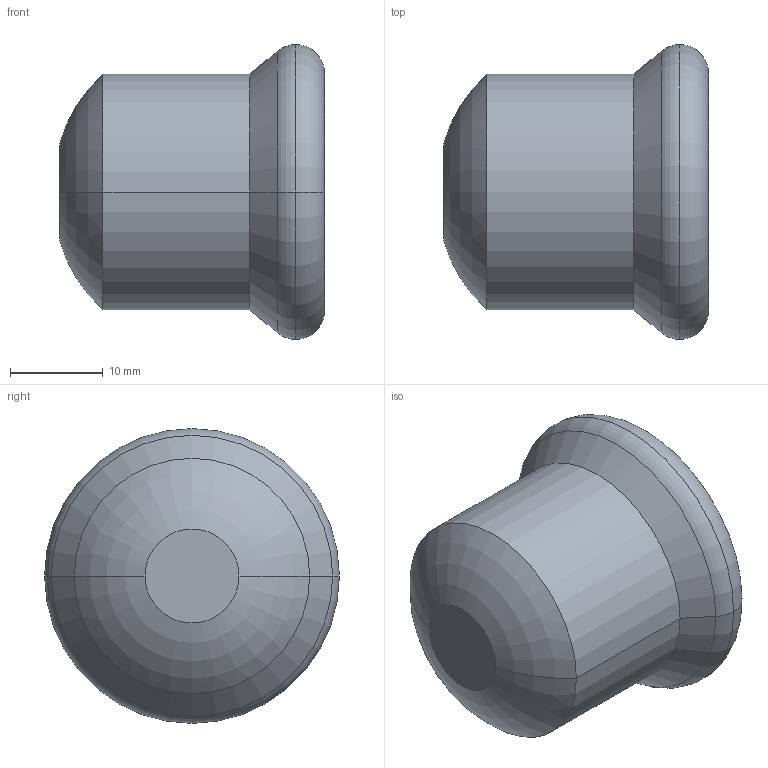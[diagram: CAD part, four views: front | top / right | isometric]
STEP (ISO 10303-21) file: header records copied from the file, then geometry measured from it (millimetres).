
FILE_DESCRIPTION(('CoCreate Modeling STEP Export'),'2;1');
FILE_NAME('C1429 22.stp','2014-11-12T16:08:18',(''),(''),'CoCreate Modeling STEP processor for AP214 (Solid Model)','CoCreate Modeling 17.00A 17-Jun-2010 (C) Parametric Technology GmbH','');
FILE_SCHEMA(('AUTOMOTIVE_DESIGN { 1 0 10303 214 1 1 1 1 }'));
Length unit declared in the file: millimetre
Products named in the file (2): C1429_22
Assembly tree (1 placements, depth 2):
  C1429_22
    C1429_22
Bounding box: 28.5 x 31.7 x 31.7 mm (x, y, z)
Volume: 5946.3 mm3; surface area: 5070.8 mm2
Topology: 1 solids, 1 shells, 21 faces, 42 edges, 26 vertices
Faces by surface type: cylinder 8, torus 6, plane 5, cone 2
Entity records: 490 total; most frequent: ORIENTED_EDGE 84, DIRECTION 74, CARTESIAN_POINT 68, EDGE_CURVE 42, AXIS2_PLACEMENT_3D 32, VERTEX_POINT 26, EDGE_LOOP 24, FACE_OUTER_BOUND 21
